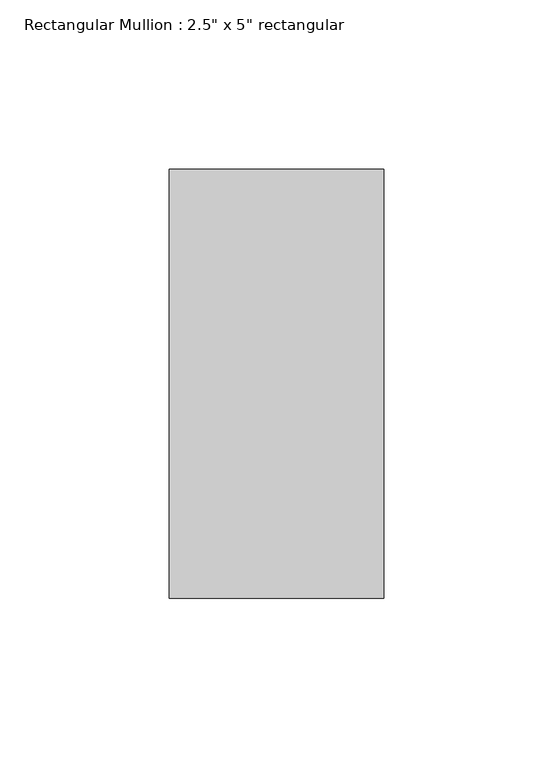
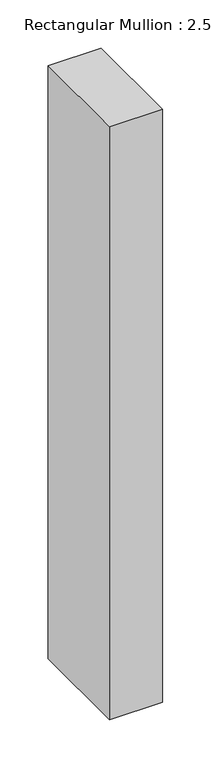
"""IFC4 building model written with IfcOpenShell, lengths in millimetres: member geometry."""

from ifc_helpers import new_model, si_unit, frame, origin, place, context, project, spatial, polyline, outline, extrude, source, transform, mapped, element, save


def member_798d6cad(model_context):
    return source(origin(), model_context, "Body", "SweptSolid", [
        extrude(outline(polyline([(31.75, 63.5), (31.75, -63.5), (-31.75, -63.5), (-31.75, 63.5), (31.75, 63.5)])), frame((0.0, 0.0, -749.3), z_axis=(0.0, 0.0, 1.0), x_axis=(1.0, 0.0, 0.0)), (0.0, 0.0, 1.0), 749.3),
    ])


if __name__ == "__main__":
    model = new_model("IFC4")
    model_context = context("Model", 3, world=origin())
    ifc_project = project(units=[si_unit("LENGTHUNIT", "METRE", prefix="MILLI")], contexts=[model_context])
    site = spatial("IfcSite", under=ifc_project)
    building = spatial("IfcBuilding", under=site)
    placement = place(None, origin())
    member_shape = member_798d6cad(model_context)
    element("IfcMember", 1, ObjectType="Rectangular Mullion : 2.5\" x 5\" rectangular", at=placement, inside=building, context=model_context, shape_type="MappedRepresentation", body=[
        mapped(member_shape, transform((0.0, 0.0, 0.0), x_axis=(1.0, 0.0, 0.0), y_axis=(0.0, 1.0, 0.0), z_axis=(0.0, 0.0, 1.0))),
    ])
    save(model, "model.ifc")
